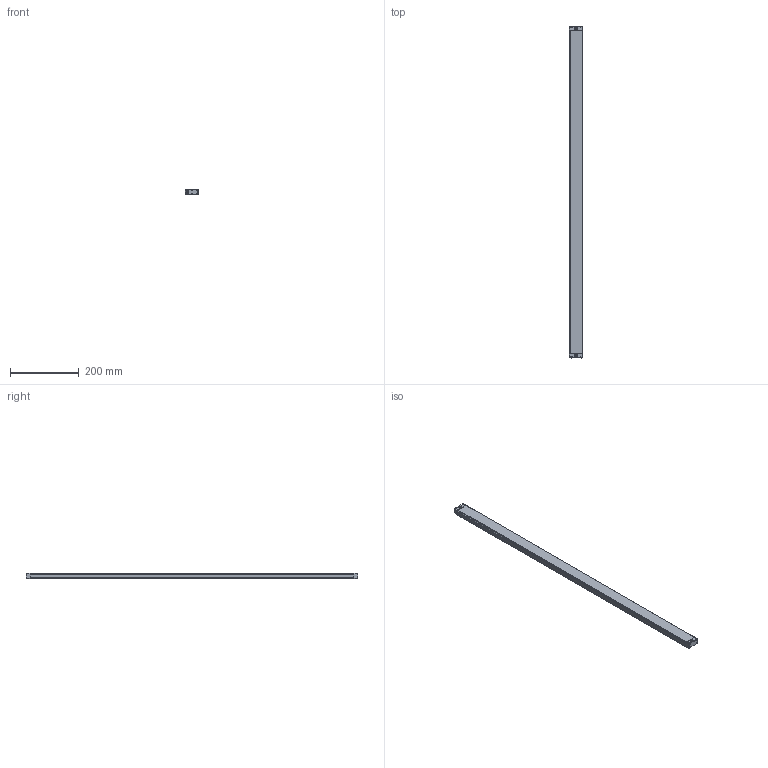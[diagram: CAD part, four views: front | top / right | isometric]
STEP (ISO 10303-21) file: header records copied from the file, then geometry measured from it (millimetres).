
FILE_DESCRIPTION((''),'2;1');
FILE_NAME('EB15--3610_ASM','2021-07-22T11:30:09',('18720616900'),(''),'CREO PARAMETRIC BY PTC INC, 2019010','CREO PARAMETRIC BY PTC INC, 2019010','');
FILE_SCHEMA(('CONFIG_CONTROL_DESIGN'));
Length unit declared in the file: millimetre
Products named in the file (6): EB15-00; EB15-000; EB15-0003; EB15-0004; ST-3-12; EB15--3610_ASM
Assembly tree (12 placements, depth 2):
  EB15--3610_ASM
    EB15-00
    EB15-000
    EB15-0003
    EB15-0004
    ST-3-12  x8
Bounding box: 39.15 x 965 x 15.8 mm (x, y, z)
Volume: 579965.6 mm3; surface area: 140901.5 mm2
Topology: 12 solids, 12 shells, 827 faces, 2188 edges, 1368 vertices
Faces by surface type: plane 242, bspline 188, cone 176, cylinder 165, torus 40, sphere 16
Entity records: 16044 total; most frequent: CARTESIAN_POINT 7660, ORIENTED_EDGE 1804, DIRECTION 1603, EDGE_CURVE 902, AXIS2_PLACEMENT_3D 577, VERTEX_POINT 563, VECTOR 449, LINE 449
